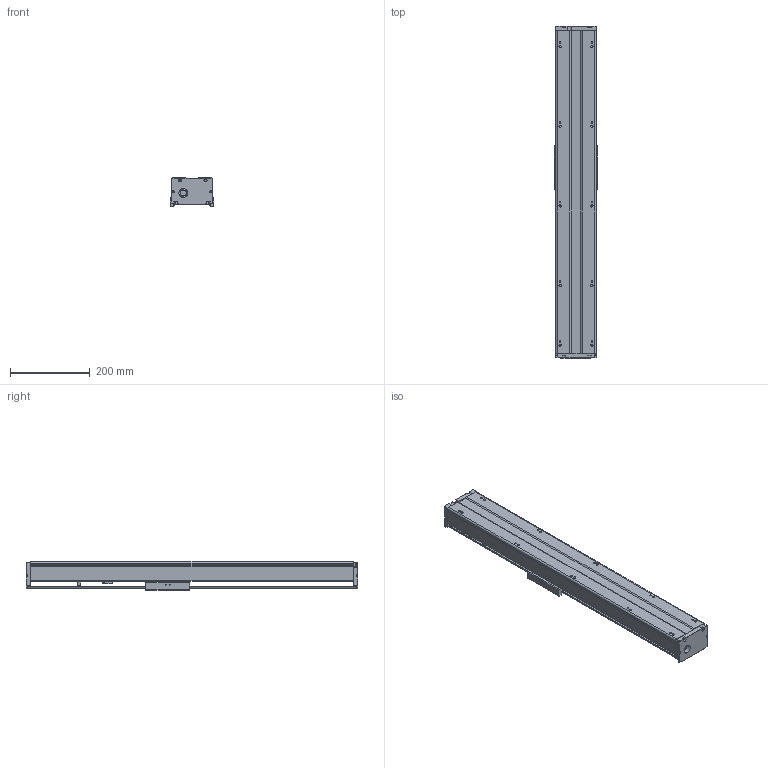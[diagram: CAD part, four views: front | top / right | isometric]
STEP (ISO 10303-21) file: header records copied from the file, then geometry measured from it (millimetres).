
FILE_DESCRIPTION(/* description */ (''),/* implementation_level */ '2;1');
FILE_NAME(/* name */ 'TKA100-450A1FI_asm1.stp',/* time_stamp */ '2017-02-21T08:32:18+08:00',/* author */ (''),/* organization */ (''),/* preprocessor_version */ 'ST-DEVELOPER v15',/* originating_system */ 'SIEMENS PLM Software NX 8.5',/* authorisation */ '');
FILE_SCHEMA (('AUTOMOTIVE_DESIGN { 1 0 10303 214 3 1 1 1 }'));
Length unit declared in the file: millimetre
Products named in the file (3): 200-0250; 200-0151; TKA100-450A1FI_asm1_stp
Assembly tree (2 placements, depth 2):
  TKA100-450A1FI_asm1_stp
    200-0151
    200-0250
Bounding box: 110 x 834 x 71 mm (x, y, z)
Volume: 1844035.1 mm3; surface area: 593147.1 mm2
Topology: 2 solids, 9 shells, 849 faces, 2190 edges, 1387 vertices
Faces by surface type: plane 357, cylinder 285, cone 147, torus 34, bspline 26
Full cylindrical faces by diameter (mm): 2.5 x4, 2.6 x8, 3.3 x8, 3.4 x4, 3.8 x4, 4.2 x19, 4.3 x4, 4.5 x4, 5 x1, 5.5 x22, 6.6 x4, 8 x5, 9 x4, 10 x10, 11 x4, 12 x7, 15.3 x1, 16 x1, 22 x1, 24 x1, 28 x5, 30 x1
Entity records: 30256 total; most frequent: CARTESIAN_POINT 10496, DIRECTION 4104, ORIENTED_EDGE 3842, EDGE_CURVE 1921, AXIS2_PLACEMENT_3D 1582, VERTEX_POINT 1316, EDGE_LOOP 1131, LINE 940
